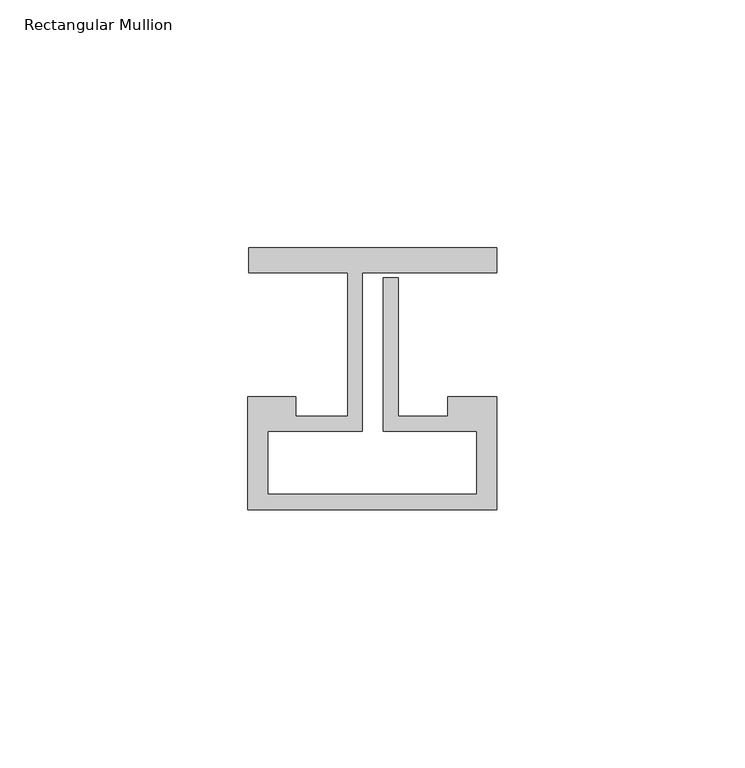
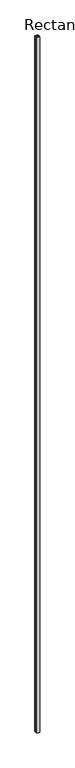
"""IFC4 building model written with IfcOpenShell, lengths in millimetres: member geometry, Rectangular Mullion : Reynaers_CW-50_Mullion-Transom_Horizontal_5mm_Facecap-02C."""

import ifcopenshell
import ifcopenshell.guid

model = None  # the IFC model being written
_history = None  # IfcOwnerHistory: only IFC2X3 demands one
_inside = {}  # id of a spatial element -> (the spatial element, [elements in it])
_under = {}  # id of a project, library or spatial element -> (it, [spatial elements below it])
_declared = {}  # id of a project -> (the project, [libraries it declares])
_typed = {}  # id of a type object -> (the type object, [elements of that type])
_made_of = {}  # id of a material, layer set ... -> (it, [elements and type objects made of it])


def new_model(schema):
    """Start an empty IFC model of exactly this schema.

    Asked for "IFC4X3", IfcOpenShell would pick the latest addendum, in which some entities
    have other attributes; the version numbers below select the first issue.
    IFC2X3 requires an IfcOwnerHistory on every rooted entity: one is made here for all.
    """
    global model, _history
    if schema == "IFC4X3":
        model = ifcopenshell.file(schema_version=(4, 3, 0, 0))
    else:
        model = ifcopenshell.file(schema=schema)
    _inside.clear()
    _under.clear()
    _declared.clear()
    _typed.clear()
    _made_of.clear()
    _history = None
    if model.schema == "IFC2X3":
        org = make("IfcOrganization", Name="unknown")
        user = make(
            "IfcPersonAndOrganization",
            ThePerson=make("IfcPerson", FamilyName="unknown"),
            TheOrganization=org,
        )
        app = make(
            "IfcApplication",
            ApplicationDeveloper=org,
            Version="unknown",
            ApplicationFullName="unknown",
            ApplicationIdentifier="unknown",
        )
        _history = make(
            "IfcOwnerHistory",
            OwningUser=user,
            OwningApplication=app,
            ChangeAction="ADDED",
            CreationDate=0,
        )
    return model


def make(cls, **values):
    """One entity of the class cls with the attributes given. An attribute that is None is left unset."""
    return model.create_entity(
        cls, **{name: value for name, value in values.items() if value is not None}
    )


def rooted(cls, **values):
    """An entity with a GlobalId (a new one), such as an element, a storey or a relation."""
    return make(cls, GlobalId=ifcopenshell.guid.new(), OwnerHistory=_history, **values)


def si_unit(unit_type, name, prefix=None):
    """IfcSIUnit, for example si_unit("LENGTHUNIT", "METRE", prefix="MILLI")."""
    return make("IfcSIUnit", UnitType=unit_type, Prefix=prefix, Name=name)


def assignment(units):
    """IfcUnitAssignment: the units of a project."""
    return None if units is None else make("IfcUnitAssignment", Units=units)


def point(xyz):
    """IfcCartesianPoint."""
    return None if xyz is None else make("IfcCartesianPoint", Coordinates=xyz)


def direction(xyz):
    """IfcDirection."""
    return None if xyz is None else make("IfcDirection", DirectionRatios=xyz)


def frame(location, z_axis=None, x_axis=None):
    """IfcAxis2Placement3D, a coordinate frame: its origin and axes. An axis left out is left unset."""
    return make(
        "IfcAxis2Placement3D",
        Location=point(location),
        Axis=direction(z_axis),
        RefDirection=direction(x_axis),
    )


def origin():
    """The frame at (0, 0, 0) with its axes left unset."""
    return frame((0.0, 0.0, 0.0))


def place(relative_to, where):
    """IfcLocalPlacement: puts the frame where relative to a parent placement (None: the world)."""
    return make(
        "IfcLocalPlacement", PlacementRelTo=relative_to, RelativePlacement=where
    )


def context(
    kind, dimensions, precision=None, world=None, true_north=None, identifier=None
):
    """IfcGeometricRepresentationContext, for example the 3D "Model" context."""
    return make(
        "IfcGeometricRepresentationContext",
        ContextIdentifier=identifier,
        ContextType=kind,
        CoordinateSpaceDimension=dimensions,
        Precision=precision,
        WorldCoordinateSystem=world,
        TrueNorth=true_north,
    )


def project(units=None, contexts=None):
    """IfcProject with its units and contexts."""
    return rooted(
        "IfcProject",
        Name="project",
        RepresentationContexts=contexts,
        UnitsInContext=assignment(units),
    )


def spatial(cls, under=None, at=None, **own):
    """A site, building, storey or space (cls), placed at a placement, below another one or the project."""
    s = rooted(cls, ObjectPlacement=at, **own)
    if under is not None:
        _under.setdefault(under.id(), (under, []))[1].append(s)
    return s


def polyline(points):
    """IfcPolyline through the points."""
    return make("IfcPolyline", Points=[point(p) for p in points])


def outline(outer, holes=None, kind="AREA"):
    """IfcArbitraryClosedProfileDef: a profile drawn as a closed curve; with holes, ...WithVoids."""
    if holes is None:
        return make("IfcArbitraryClosedProfileDef", ProfileType=kind, OuterCurve=outer)
    return make(
        "IfcArbitraryProfileDefWithVoids",
        ProfileType=kind,
        OuterCurve=outer,
        InnerCurves=holes,
    )


def extrude(swept, where, along, depth):
    """IfcExtrudedAreaSolid: the profile swept, set in the frame where, extruded along a direction by depth."""
    return make(
        "IfcExtrudedAreaSolid",
        SweptArea=swept,
        Position=where,
        ExtrudedDirection=direction(along),
        Depth=depth,
    )


def shape(context_of_items, identifier, shape_type, items):
    """IfcShapeRepresentation: the items that make up one representation, for example the "Body"."""
    return make(
        "IfcShapeRepresentation",
        ContextOfItems=context_of_items,
        RepresentationIdentifier=identifier,
        RepresentationType=shape_type,
        Items=items,
    )


def source(mapping_origin, context_of_items, identifier, shape_type, items):
    """IfcRepresentationMap: a shape defined once, which mapped items show again and again."""
    return make(
        "IfcRepresentationMap",
        MappingOrigin=mapping_origin,
        MappedRepresentation=shape(context_of_items, identifier, shape_type, items),
    )


def transform(
    local_origin,
    x_axis=None,
    y_axis=None,
    z_axis=None,
    scale=None,
    scale2=None,
    scale3=None,
    uniform=True,
):
    """IfcCartesianTransformationOperator3D, or its non-uniform kind. x_axis, y_axis, z_axis: its Axis1, 2, 3."""
    if uniform:
        return make(
            "IfcCartesianTransformationOperator3D",
            Axis1=direction(x_axis),
            Axis2=direction(y_axis),
            LocalOrigin=point(local_origin),
            Scale=scale,
            Axis3=direction(z_axis),
        )
    return make(
        "IfcCartesianTransformationOperator3DnonUniform",
        Axis1=direction(x_axis),
        Axis2=direction(y_axis),
        LocalOrigin=point(local_origin),
        Scale=scale,
        Axis3=direction(z_axis),
        Scale2=scale2,
        Scale3=scale3,
    )


def mapped(mapping_source, mapping_target):
    """IfcMappedItem: shows the shape of a source again, moved by a transform."""
    return make(
        "IfcMappedItem", MappingSource=mapping_source, MappingTarget=mapping_target
    )


def made_of(thing, what):
    """Note that an element or type object is made of a material, layer set ...; save() writes the relation."""
    if what is not None:
        _made_of.setdefault(what.id(), (what, []))[1].append(thing)
    return thing


def element(
    cls,
    number,
    at=None,
    inside=None,
    cuts=None,
    type_object=None,
    material=None,
    context=None,
    identifier="Body",
    shape_type=None,
    held_by="IfcProductDefinitionShape",
    body=None,
    shapes=None,
    **own,
):
    """One element of the class cls, such as IfcWall. Its Tag is "e" and its number.

    at: its placement. inside: the storey or other place that contains it. cuts: it is an
    opening in that element (IfcRelVoidsElement). A single representation is given by context,
    identifier, shape_type and body (its items); several are given by shapes. held_by: the class
    of the entity that holds the representations. save() writes the other relations.
    """
    e = rooted(cls, Tag="e%d" % number, ObjectPlacement=at, **own)
    if body is not None:
        shapes = [shape(context, identifier, shape_type, body)]
    if shapes is not None:
        e.Representation = make(held_by, Representations=shapes)
    if inside is not None:
        _inside.setdefault(inside.id(), (inside, []))[1].append(e)
    if cuts is not None:
        rooted(
            "IfcRelVoidsElement", RelatingBuildingElement=cuts, RelatedOpeningElement=e
        )
    if type_object is not None:
        _typed.setdefault(type_object.id(), (type_object, []))[1].append(e)
    return made_of(e, material)


def aggregate(whole, parts):
    """IfcRelAggregates: a whole, such as a stair, and the parts it consists of."""
    return rooted("IfcRelAggregates", RelatingObject=whole, RelatedObjects=parts)


def save(model, path):
    """Write the relations noted so far, then the file.

    IfcRelAggregates (storeys below a building ...), IfcRelContainedInSpatialStructure (elements
    in a storey), IfcRelDefinesByType, IfcRelAssociatesMaterial and IfcRelDeclares: one each for
    every whole, place, type object, material and project.
    """
    for whole, parts in _under.values():
        aggregate(whole, parts)
    for where, things in _inside.values():
        rooted(
            "IfcRelContainedInSpatialStructure",
            RelatedElements=things,
            RelatingStructure=where,
        )
    for kind, things in _typed.values():
        rooted("IfcRelDefinesByType", RelatedObjects=things, RelatingType=kind)
    for what, things in _made_of.values():
        rooted("IfcRelAssociatesMaterial", RelatedObjects=things, RelatingMaterial=what)
    for by, libraries in _declared.values():
        rooted("IfcRelDeclares", RelatingContext=by, RelatedDefinitions=libraries)
    model.write(path)


def rectangular_mullion_8f5d7e34(model_context):
    return source(origin(), model_context, "Body", "SweptSolid", [
        extrude(outline(polyline([(-24.8004059, 17.5), (25.1995941, 17.5), (25.1995941, 12.5), (-1.9004059, 12.5), (-1.9004059, -19.5), (-20.994845, -19.5), (-20.994845, -32.2191338), (21.1995941, -32.2191338), (21.1995941, -19.5), (2.2995941, -19.5), (2.2995941, 11.5), (5.2995941, 11.5), (5.2995941, -16.5), (15.2996495, -16.5), (15.2996495, -12.5), (25.1995941, -12.5), (25.1995941, -35.3), (-24.994845, -35.3), (-24.994845, -12.5), (-15.2996495, -12.5), (-15.2996495, -16.5), (-4.9004059, -16.5), (-4.9004059, 12.5), (-24.8004059, 12.5), (-24.8004059, 17.5)])), frame((0.0, 0.0, -12000.0), z_axis=(0.0, 0.0, 1.0), x_axis=(1.0, 0.0, 0.0)), (0.0, 0.0, 1.0), 12000.0),
    ])


if __name__ == "__main__":
    model = new_model("IFC4")
    model_context = context("Model", 3, world=origin())
    ifc_project = project(units=[si_unit("LENGTHUNIT", "METRE", prefix="MILLI")], contexts=[model_context])
    site = spatial("IfcSite", under=ifc_project)
    building = spatial("IfcBuilding", under=site)
    placement = place(None, origin())
    rectangular_mullion_shape = rectangular_mullion_8f5d7e34(model_context)
    element("IfcMember", 1, ObjectType="Rectangular Mullion : Reynaers_CW-50_Mullion-Transom_Horizontal_5mm_Facecap-02C", at=placement, inside=building, context=model_context, shape_type="MappedRepresentation", body=[
        mapped(rectangular_mullion_shape, transform((0.0, 0.0, 0.0), x_axis=(1.0, 0.0, 0.0), y_axis=(0.0, 1.0, 0.0), z_axis=(0.0, 0.0, 1.0))),
    ])
    save(model, "model.ifc")
